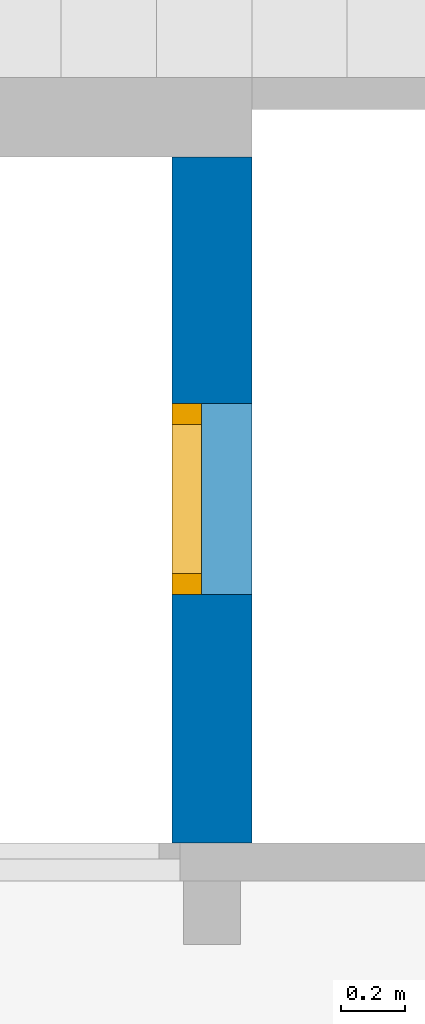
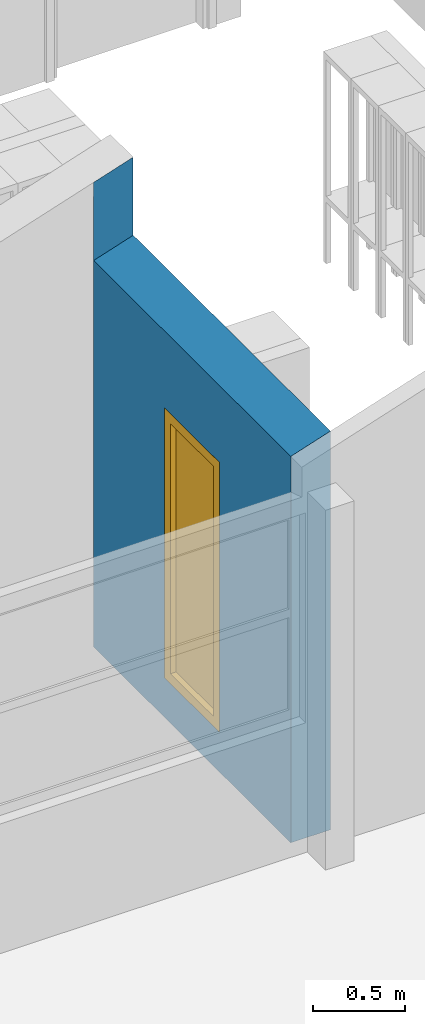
# One storey, part 14 of 48: 1 wall, 1 window, 1 opening.
"""IFC2X3 building model written with IfcOpenShell, lengths in millimetres."""

from ifc_helpers import new_model, entity, si_unit, converted_unit, derived_unit, money_unit, direction, frame, origin_with_axes, place, context, subcontext, project, spatial, open_shell, faceted_brep, surface_model, source, transform, mapped, material, type_object, element, fill, save


model = new_model("IFC2X3")

# Units and contexts
model_context = context("Model", 3, precision=0.01, world=origin_with_axes(), true_north=direction((0.0, 1.0)))
body_context = subcontext(model_context, "Body", "Model", "MODEL_VIEW")
ifc_project = project(units=[si_unit("LENGTHUNIT", "METRE", prefix="MILLI"), si_unit("AREAUNIT", "SQUARE_METRE"), si_unit("VOLUMEUNIT", "CUBIC_METRE"), converted_unit("PLANEANGLEUNIT", "DEGREE", entity("IfcPlaneAngleMeasure", 0.0174532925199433), si_unit("PLANEANGLEUNIT", "RADIAN"), dimensions=[0, 0, 0, 0, 0, 0, 0]), money_unit("USD"), converted_unit("TIMEUNIT", "Year", entity("IfcTimeMeasure", 31557600.0), si_unit("TIMEUNIT", "SECOND"), dimensions=[0, 0, 1, 0, 0, 0, 0]), si_unit("MASSUNIT", "GRAM", prefix="KILO"), si_unit("THERMODYNAMICTEMPERATUREUNIT", "DEGREE_CELSIUS"), si_unit("LUMINOUSINTENSITYUNIT", "LUMEN"), si_unit("ENERGYUNIT", "JOULE", prefix="MEGA"), derived_unit("THERMALCONDUCTANCEUNIT", [(si_unit("POWERUNIT", "WATT"), 1), (si_unit("LENGTHUNIT", "METRE"), -1), (si_unit("THERMODYNAMICTEMPERATUREUNIT", "KELVIN"), -1)]), derived_unit("SPECIFICHEATCAPACITYUNIT", [(si_unit("ENERGYUNIT", "JOULE"), 1), (si_unit("MASSUNIT", "GRAM", prefix="KILO"), -1), (si_unit("THERMODYNAMICTEMPERATUREUNIT", "KELVIN"), -1)]), derived_unit("MASSDENSITYUNIT", [(si_unit("MASSUNIT", "GRAM", prefix="KILO"), 1), (si_unit("VOLUMEUNIT", "CUBIC_METRE"), -1)])], contexts=[model_context])

# Site, building, storey
site_placement = place(None, origin_with_axes())
site = spatial("IfcSite", under=ifc_project, at=site_placement, Name="Site", CompositionType="ELEMENT")
building_placement = place(site_placement, origin_with_axes())
building = spatial("IfcBuilding", under=site, at=building_placement, Name="Building", CompositionType="ELEMENT")
storey_placement = place(building_placement, frame((0.0, 0.0, 3300.0), z_axis=(0.0, 0.0, 1.0), x_axis=(1.0, 0.0, 0.0)))
storey = spatial("IfcBuildingStorey", under=building, at=storey_placement, Name="1 ETG", CompositionType="ELEMENT", Elevation=3300.0)

# Wall, opening, window
ifc_material = material(Name="GENERIC - INTERNAL FILLER")
wall_type = type_object("IfcWallType", Name="GENERIC - INTERNAL FILLER 250", PredefinedType="NOTDEFINED")
wall_placement = place(storey_placement, frame((4499.999999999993, 21919.98877803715, 0.0), z_axis=(0.0, 0.0, 1.0), x_axis=(0.0, 1.0, 0.0)))
wall = element("IfcWall", 1, at=wall_placement, inside=storey, type_object=wall_type, material=ifc_material, Name="SW - 001", context=body_context, shape_type="Brep", body=[
    faceted_brep([(2154.88619833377, 125.0, 3098.576751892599), (2154.88619833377, 125.0, 0.0), (0.0, 125.0, 0.0), (0.0, 124.9999995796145, 2577.639475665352), (2154.872900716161, 124.9999995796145, 2577.639475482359), (2154.872900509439, 124.9999999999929, 2877.639475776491), (2154.872899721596, 124.9999999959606, 3098.576751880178), (780.007681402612, 124.9999995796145, 265.0187491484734), (1380.007681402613, 124.9999995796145, 265.0187491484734), (1380.007681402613, 124.9999995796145, 2065.018749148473), (780.007681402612, 124.9999995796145, 2065.018749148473), (2154.88619833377, -125.0, 3179.806740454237), (2154.88619833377, -125.0, 0.0), (0.0, -125.0, 0.0), (0.0, -125.0, 2658.869399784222), (2154.872900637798, -125.0, 2658.869399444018), (2154.872900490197, -125.0000000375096, 2958.869399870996), (2154.872899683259, -125.0, 3179.806740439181), (780.007681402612, -125.0000000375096, 265.0187491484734), (1380.007681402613, -125.0000000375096, 265.0187491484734), (1380.007681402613, -125.0000000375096, 2065.018749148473), (780.007681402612, -125.0000000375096, 2065.018749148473)], [[[0, 1, 2, 3, 4, 5, 6], [7, 8, 9, 10]], [[0, 11, 12, 1]], [[1, 12, 13, 2]], [[14, 3, 2, 13]], [[14, 15, 4, 3]], [[15, 16, 5, 4]], [[5, 16, 17, 6]], [[17, 11, 0, 6]], [[18, 19, 8, 7]], [[19, 20, 9, 8]], [[20, 21, 10, 9]], [[21, 18, 7, 10]], [[12, 11, 17, 16, 15, 14, 13], [18, 21, 20, 19]]]),
])
opening_placement = place(wall_placement, frame((1080.007681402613, 0.0, 265.0187491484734), z_axis=(0.0, 0.0, 1.0), x_axis=(1.0, 0.0, 0.0)))
opening = element("IfcOpeningElement", 2, at=opening_placement, cuts=wall, Name="WD - 001", context=body_context, shape_type="Brep", body=[
    faceted_brep([(-300.0000000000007, -126.0000000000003, 1800.0), (-300.0000000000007, -126.0000000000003, 0.0), (300.0000000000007, -126.0000000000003, 0.0), (300.0000000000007, -126.0000000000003, 1800.0), (-300.0000000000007, 126.0000000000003, 1800.0), (-300.0000000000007, 126.0000000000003, 0.0), (300.0000000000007, 126.0000000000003, 0.0), (300.0000000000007, 126.0000000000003, 1800.0)], [[[0, 1, 2, 3]], [[4, 5, 1, 0]], [[5, 6, 2, 1]], [[6, 7, 3, 2]], [[7, 4, 0, 3]], [[6, 5, 4, 7]]]),
])
window_style = type_object("IfcWindowStyle", Name="Vindu", ConstructionType="NOTDEFINED", OperationType="SINGLE_PANEL", ParameterTakesPrecedence=False, Sizeable=False)
shared_shape = source(origin_with_axes(), body_context, "Body", "SurfaceModel", [
    faceted_brep([(234.0, -92.00000000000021, 1734.0), (300.0, -92.00000000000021, 1734.0), (300.0, 0.0, 1734.0), (234.0, 0.0, 1734.0), (234.0, -92.0, 66.0), (300.0, -92.0, 66.0), (300.0, 0.0, 66.0), (234.0, 0.0, 66.0)], [[[0, 1, 2, 3]], [[0, 4, 5, 1]], [[1, 5, 6, 2]], [[3, 2, 6, 7]], [[4, 0, 3, 7]], [[5, 4, 7, 6]]]),
    faceted_brep([(-234.0, -92.0, 66.0), (-300.0, -92.0, 66.0), (-300.0, 0.0, 66.0), (-234.0, 0.0, 66.0), (-234.0, -92.00000000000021, 1734.0), (-300.0, -92.00000000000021, 1734.0), (-300.0, 0.0, 1734.0), (-234.0, 0.0, 1734.0)], [[[0, 1, 2, 3]], [[0, 4, 5, 1]], [[1, 5, 6, 2]], [[3, 2, 6, 7]], [[4, 0, 3, 7]], [[5, 4, 7, 6]]]),
    faceted_brep([(234.0, -92.0, 66.0), (300.0, -92.0, 66.0), (300.0, 0.0, 66.0), (234.0, 0.0, 66.0), (-234.0, -92.0, 66.0), (-300.0, -92.0, 66.0), (-300.0, -92.0, 0.0), (300.0, -92.0, 0.0), (300.0, 0.0, 0.0), (-300.0, 0.0, 0.0), (-300.0, 0.0, 66.0), (-234.0, 0.0, 66.0)], [[[0, 1, 2, 3]], [[0, 4, 5, 6, 7, 1]], [[1, 7, 8, 2]], [[3, 2, 8, 9, 10, 11]], [[4, 0, 3, 11]], [[5, 4, 11, 10]], [[6, 5, 10, 9]], [[7, 6, 9, 8]]]),
    faceted_brep([(-234.0, -92.00000000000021, 1734.0), (-300.0, -92.00000000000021, 1734.0), (-300.0, 0.0, 1734.0), (-234.0, 0.0, 1734.0), (234.0, -92.00000000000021, 1734.0), (300.0, -92.00000000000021, 1734.0), (300.0, -92.00000000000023, 1800.0), (-300.0, -92.00000000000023, 1800.0), (-300.0, 0.0, 1800.0), (300.0, 0.0, 1800.0), (300.0, 0.0, 1734.0), (234.0, 0.0, 1734.0)], [[[0, 1, 2, 3]], [[0, 4, 5, 6, 7, 1]], [[1, 7, 8, 2]], [[3, 2, 8, 9, 10, 11]], [[4, 0, 3, 11]], [[5, 4, 11, 10]], [[6, 5, 10, 9]], [[7, 6, 9, 8]]]),
    surface_model("IfcShellBasedSurfaceModel", [(234.0, -56.0, 66.0), (234.0, -56.0000000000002, 1734.0), (-234.0, -56.0000000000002, 1734.0), (-234.0, -56.0, 66.0)], [open_shell([[[0, 1, 2, 3]]])]),
    surface_model("IfcShellBasedSurfaceModel", [(234.0, -36.00000000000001, 66.0), (-234.0, -36.00000000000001, 66.0), (-234.0, -36.00000000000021, 1734.0), (234.0, -36.00000000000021, 1734.0)], [open_shell([[[0, 1, 2, 3]]])]),
])
window_placement = place(opening_placement, frame((-300.0000000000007, 0.0, 0.0), z_axis=(0.0, 0.0, 1.0), x_axis=(1.0, 0.0, 0.0)))
window = element("IfcWindow", 3, at=window_placement, inside=storey, type_object=window_style, Name="WD - 001", ObjectType="WINDOW", OverallHeight=1800.0, OverallWidth=600.0, context=body_context, shape_type="MappedRepresentation", body=[
    mapped(shared_shape, transform((300.0000000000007, 125.0, 0.0))),
])
fill(opening, window)

save(model, "model.ifc")
